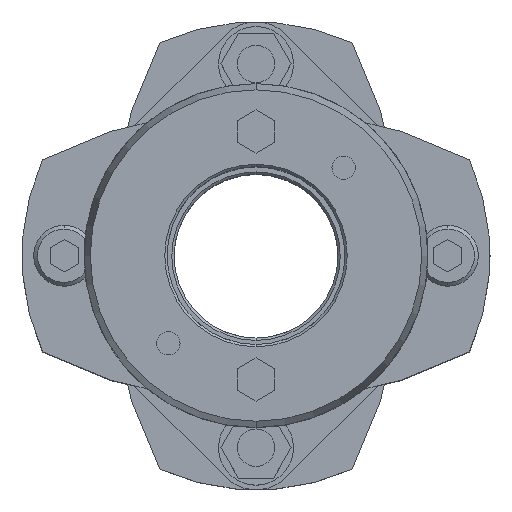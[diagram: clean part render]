
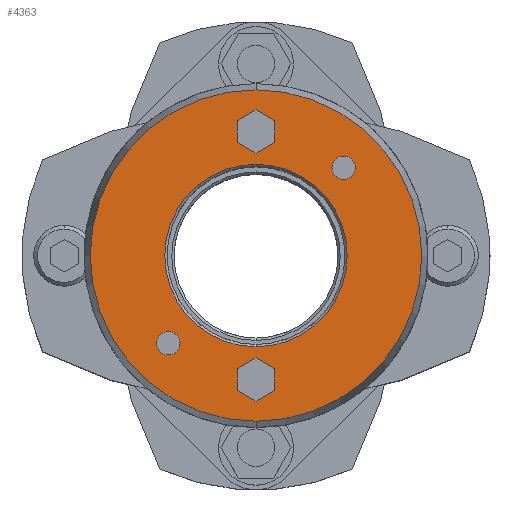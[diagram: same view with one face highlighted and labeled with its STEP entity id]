
A CAD part, top view. The second image highlights one B-rep face of the part: STEP entity #4363.
In plain terms, the highlighted planar face has unit normal (0, 0, 1).
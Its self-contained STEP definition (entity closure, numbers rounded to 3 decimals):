
#2325=CARTESIAN_POINT('',(0.,19.5,55.5));
#2326=VERTEX_POINT('',#2325);
#2342=CARTESIAN_POINT('',(0.,-19.5,55.5));
#2343=VERTEX_POINT('',#2342);
#2350=CARTESIAN_POINT('',(0.,0.,55.5));
#2351=DIRECTION('',(0.0,0.0,1.0));
#2352=DIRECTION('',(0.0,1.0,0.0));
#2353=AXIS2_PLACEMENT_3D('',#2350,#2351,#2352);
#2354=CIRCLE('',#2353,19.5);
#2355=EDGE_CURVE('',#2343,#2326,#2354,.T.);
#2471=CARTESIAN_POINT('',(0.,-35.41,55.5));
#2472=VERTEX_POINT('',#2471);
#2481=CARTESIAN_POINT('',(0.,35.41,55.5));
#2482=VERTEX_POINT('',#2481);
#2483=CARTESIAN_POINT('',(0.,0.,55.5));
#2484=DIRECTION('',(0.0,0.0,-1.0));
#2485=DIRECTION('',(0.0,-1.0,0.0));
#2486=AXIS2_PLACEMENT_3D('',#2483,#2484,#2485);
#2487=CIRCLE('',#2486,35.41);
#2488=EDGE_CURVE('',#2472,#2482,#2487,.T.);
#2657=CARTESIAN_POINT('',(18.738,21.238,55.5));
#2658=VERTEX_POINT('',#2657);
#2674=CARTESIAN_POINT('',(18.738,16.238,55.5));
#2675=VERTEX_POINT('',#2674);
#2682=CARTESIAN_POINT('',(18.738,18.738,55.5));
#2683=DIRECTION('',(0.0,0.0,-1.0));
#2684=DIRECTION('',(0.0,1.0,0.0));
#2685=AXIS2_PLACEMENT_3D('',#2682,#2683,#2684);
#2686=CIRCLE('',#2685,2.5);
#2687=EDGE_CURVE('',#2658,#2675,#2686,.T.);
#2699=CARTESIAN_POINT('',(-18.738,-16.238,55.5));
#2700=VERTEX_POINT('',#2699);
#2716=CARTESIAN_POINT('',(-18.738,-21.238,55.5));
#2717=VERTEX_POINT('',#2716);
#2724=CARTESIAN_POINT('',(-18.738,-18.738,55.5));
#2725=DIRECTION('',(0.0,0.0,-1.0));
#2726=DIRECTION('',(0.0,1.0,0.0));
#2727=AXIS2_PLACEMENT_3D('',#2724,#2725,#2726);
#2728=CIRCLE('',#2727,2.5);
#2729=EDGE_CURVE('',#2700,#2717,#2728,.T.);
#3489=CARTESIAN_POINT('',(0.,-21.881,55.5));
#3490=VERTEX_POINT('',#3489);
#3497=CARTESIAN_POINT('',(-4.,-24.191,55.5));
#3498=VERTEX_POINT('',#3497);
#3499=CARTESIAN_POINT('',(-4.,-24.191,55.5));
#3500=DIRECTION('',(0.866,0.5,0.0));
#3501=VECTOR('',#3500,4.619);
#3502=LINE('',#3499,#3501);
#3503=EDGE_CURVE('',#3498,#3490,#3502,.T.);
#3527=CARTESIAN_POINT('',(4.,-24.191,55.5));
#3528=VERTEX_POINT('',#3527);
#3535=CARTESIAN_POINT('',(0.,-21.881,55.5));
#3536=DIRECTION('',(0.866,-0.5,0.0));
#3537=VECTOR('',#3536,4.619);
#3538=LINE('',#3535,#3537);
#3539=EDGE_CURVE('',#3490,#3528,#3538,.T.);
#3558=CARTESIAN_POINT('',(4.,-28.809,55.5));
#3559=VERTEX_POINT('',#3558);
#3566=CARTESIAN_POINT('',(4.,-24.191,55.5));
#3567=DIRECTION('',(0.0,-1.0,0.0));
#3568=VECTOR('',#3567,4.619);
#3569=LINE('',#3566,#3568);
#3570=EDGE_CURVE('',#3528,#3559,#3569,.T.);
#3589=CARTESIAN_POINT('',(0.,-31.119,55.5));
#3590=VERTEX_POINT('',#3589);
#3597=CARTESIAN_POINT('',(4.,-28.809,55.5));
#3598=DIRECTION('',(-0.866,-0.5,0.0));
#3599=VECTOR('',#3598,4.619);
#3600=LINE('',#3597,#3599);
#3601=EDGE_CURVE('',#3559,#3590,#3600,.T.);
#3620=CARTESIAN_POINT('',(-4.,-28.809,55.5));
#3621=VERTEX_POINT('',#3620);
#3628=CARTESIAN_POINT('',(0.,-31.119,55.5));
#3629=DIRECTION('',(-0.866,0.5,0.0));
#3630=VECTOR('',#3629,4.619);
#3631=LINE('',#3628,#3630);
#3632=EDGE_CURVE('',#3590,#3621,#3631,.T.);
#3650=CARTESIAN_POINT('',(-4.,-28.809,55.5));
#3651=DIRECTION('',(0.0,1.0,0.0));
#3652=VECTOR('',#3651,4.619);
#3653=LINE('',#3650,#3652);
#3654=EDGE_CURVE('',#3621,#3498,#3653,.T.);
#3689=CARTESIAN_POINT('',(0.,31.119,55.5));
#3690=VERTEX_POINT('',#3689);
#3697=CARTESIAN_POINT('',(-4.,28.809,55.5));
#3698=VERTEX_POINT('',#3697);
#3699=CARTESIAN_POINT('',(-4.,28.809,55.5));
#3700=DIRECTION('',(0.866,0.5,0.0));
#3701=VECTOR('',#3700,4.619);
#3702=LINE('',#3699,#3701);
#3703=EDGE_CURVE('',#3698,#3690,#3702,.T.);
#3727=CARTESIAN_POINT('',(4.,28.809,55.5));
#3728=VERTEX_POINT('',#3727);
#3735=CARTESIAN_POINT('',(0.,31.119,55.5));
#3736=DIRECTION('',(0.866,-0.5,0.0));
#3737=VECTOR('',#3736,4.619);
#3738=LINE('',#3735,#3737);
#3739=EDGE_CURVE('',#3690,#3728,#3738,.T.);
#3758=CARTESIAN_POINT('',(4.,24.191,55.5));
#3759=VERTEX_POINT('',#3758);
#3766=CARTESIAN_POINT('',(4.,28.809,55.5));
#3767=DIRECTION('',(0.0,-1.0,0.0));
#3768=VECTOR('',#3767,4.619);
#3769=LINE('',#3766,#3768);
#3770=EDGE_CURVE('',#3728,#3759,#3769,.T.);
#3789=CARTESIAN_POINT('',(0.,21.881,55.5));
#3790=VERTEX_POINT('',#3789);
#3797=CARTESIAN_POINT('',(4.,24.191,55.5));
#3798=DIRECTION('',(-0.866,-0.5,0.0));
#3799=VECTOR('',#3798,4.619);
#3800=LINE('',#3797,#3799);
#3801=EDGE_CURVE('',#3759,#3790,#3800,.T.);
#3820=CARTESIAN_POINT('',(-4.,24.191,55.5));
#3821=VERTEX_POINT('',#3820);
#3828=CARTESIAN_POINT('',(0.,21.881,55.5));
#3829=DIRECTION('',(-0.866,0.5,0.0));
#3830=VECTOR('',#3829,4.619);
#3831=LINE('',#3828,#3830);
#3832=EDGE_CURVE('',#3790,#3821,#3831,.T.);
#3850=CARTESIAN_POINT('',(-4.,24.191,55.5));
#3851=DIRECTION('',(0.0,1.0,0.0));
#3852=VECTOR('',#3851,4.619);
#3853=LINE('',#3850,#3852);
#3854=EDGE_CURVE('',#3821,#3698,#3853,.T.);
#3880=CARTESIAN_POINT('',(-18.738,-18.738,55.5));
#3881=DIRECTION('',(0.0,0.0,-1.0));
#3882=DIRECTION('',(0.0,1.0,0.0));
#3883=AXIS2_PLACEMENT_3D('',#3880,#3881,#3882);
#3884=CIRCLE('',#3883,2.5);
#3885=EDGE_CURVE('',#2717,#2700,#3884,.T.);
#3914=CARTESIAN_POINT('',(18.738,18.738,55.5));
#3915=DIRECTION('',(0.0,0.0,-1.0));
#3916=DIRECTION('',(0.0,1.0,0.0));
#3917=AXIS2_PLACEMENT_3D('',#3914,#3915,#3916);
#3918=CIRCLE('',#3917,2.5);
#3919=EDGE_CURVE('',#2675,#2658,#3918,.T.);
#4310=CARTESIAN_POINT('',(0.,0.,55.5));
#4311=DIRECTION('',(0.0,0.0,-1.0));
#4312=DIRECTION('',(0.0,-1.0,0.0));
#4313=AXIS2_PLACEMENT_3D('',#4310,#4311,#4312);
#4314=CIRCLE('',#4313,35.41);
#4315=EDGE_CURVE('',#2482,#2472,#4314,.T.);
#4320=CARTESIAN_POINT('',(0.,3.341,55.5));
#4321=DIRECTION('',(0.0,0.0,1.0));
#4322=DIRECTION('',(0.0,1.0,0.0));
#4323=AXIS2_PLACEMENT_3D('',#4320,#4321,#4322);
#4324=PLANE('',#4323);
#4325=ORIENTED_EDGE('',*,*,#4315,.F.);
#4326=ORIENTED_EDGE('',*,*,#2488,.F.);
#4327=EDGE_LOOP('',(#4325,#4326));
#4328=FACE_OUTER_BOUND('',#4327,.T.);
#4329=ORIENTED_EDGE('',*,*,#3503,.T.);
#4330=ORIENTED_EDGE('',*,*,#3539,.T.);
#4331=ORIENTED_EDGE('',*,*,#3570,.T.);
#4332=ORIENTED_EDGE('',*,*,#3601,.T.);
#4333=ORIENTED_EDGE('',*,*,#3632,.T.);
#4334=ORIENTED_EDGE('',*,*,#3654,.T.);
#4335=EDGE_LOOP('',(#4329,#4330,#4331,#4332,#4333,#4334));
#4336=FACE_BOUND('',#4335,.T.);
#4337=ORIENTED_EDGE('',*,*,#3703,.T.);
#4338=ORIENTED_EDGE('',*,*,#3739,.T.);
#4339=ORIENTED_EDGE('',*,*,#3770,.T.);
#4340=ORIENTED_EDGE('',*,*,#3801,.T.);
#4341=ORIENTED_EDGE('',*,*,#3832,.T.);
#4342=ORIENTED_EDGE('',*,*,#3854,.T.);
#4343=EDGE_LOOP('',(#4337,#4338,#4339,#4340,#4341,#4342));
#4344=FACE_BOUND('',#4343,.T.);
#4345=ORIENTED_EDGE('',*,*,#2729,.T.);
#4346=ORIENTED_EDGE('',*,*,#3885,.T.);
#4347=EDGE_LOOP('',(#4345,#4346));
#4348=FACE_BOUND('',#4347,.T.);
#4349=ORIENTED_EDGE('',*,*,#2687,.T.);
#4350=ORIENTED_EDGE('',*,*,#3919,.T.);
#4351=EDGE_LOOP('',(#4349,#4350));
#4352=FACE_BOUND('',#4351,.T.);
#4353=ORIENTED_EDGE('',*,*,#2355,.F.);
#4354=CARTESIAN_POINT('',(0.,0.,55.5));
#4355=DIRECTION('',(0.0,0.0,1.0));
#4356=DIRECTION('',(0.0,1.0,0.0));
#4357=AXIS2_PLACEMENT_3D('',#4354,#4355,#4356);
#4358=CIRCLE('',#4357,19.5);
#4359=EDGE_CURVE('',#2326,#2343,#4358,.T.);
#4360=ORIENTED_EDGE('',*,*,#4359,.F.);
#4361=EDGE_LOOP('',(#4353,#4360));
#4362=FACE_BOUND('',#4361,.T.);
#4363=ADVANCED_FACE('',(#4328,#4336,#4344,#4348,#4352,#4362),#4324,.T.);
